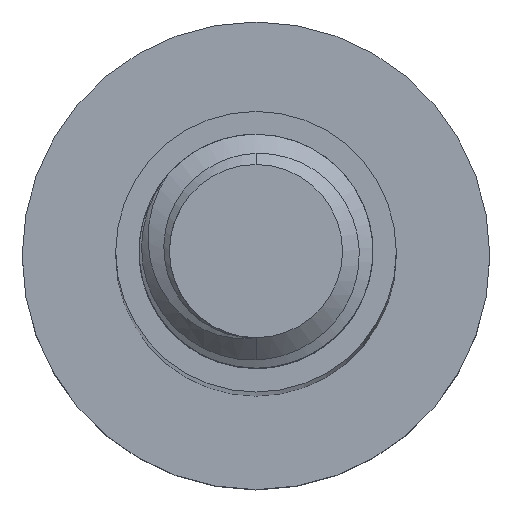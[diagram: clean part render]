
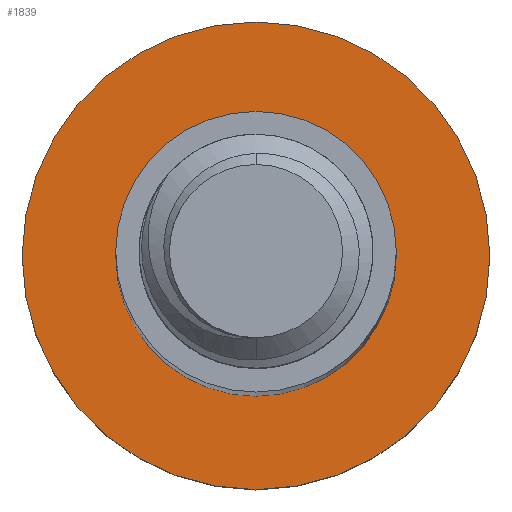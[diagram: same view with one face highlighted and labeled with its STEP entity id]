
A CAD part, top view. The second image highlights one B-rep face of the part: STEP entity #1839.
In plain terms, the highlighted planar face has unit normal (0, 0, 1).
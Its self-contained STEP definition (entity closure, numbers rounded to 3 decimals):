
#16 = AXIS2_PLACEMENT_3D ( 'NONE', #709, #2043, #2626 ) ;
#178 = AXIS2_PLACEMENT_3D ( 'NONE', #793, #3009, #2185 ) ;
#216 = CARTESIAN_POINT ( 'NONE',  ( 0., 0., -100. ) ) ;
#253 = CARTESIAN_POINT ( 'NONE',  ( -6., 0., -100. ) ) ;
#337 = CARTESIAN_POINT ( 'NONE',  ( 6., 0., -100. ) ) ;
#338 = CARTESIAN_POINT ( 'NONE',  ( 0., 0., -100. ) ) ;
#479 = VERTEX_POINT ( 'NONE', #1999 ) ;
#543 = VERTEX_POINT ( 'NONE', #337 ) ;
#709 = CARTESIAN_POINT ( 'NONE',  ( 0., 0., -100. ) ) ;
#793 = CARTESIAN_POINT ( 'NONE',  ( 0., 0., -100. ) ) ;
#855 = DIRECTION ( 'NONE',  ( -1., 0., 0. ) ) ;
#988 = CIRCLE ( 'NONE', #2996, 6. ) ;
#1032 = ORIENTED_EDGE ( 'NONE', *, *, #2866, .F. ) ;
#1079 = EDGE_LOOP ( 'NONE', ( #1706, #1175 ) ) ;
#1106 = DIRECTION ( 'NONE',  ( 0., 0., -1. ) ) ;
#1159 = EDGE_LOOP ( 'NONE', ( #1032, #1781 ) ) ;
#1175 = ORIENTED_EDGE ( 'NONE', *, *, #3031, .T. ) ;
#1297 = DIRECTION ( 'NONE',  ( -1., 0., 0. ) ) ;
#1349 = VERTEX_POINT ( 'NONE', #253 ) ;
#1652 = CARTESIAN_POINT ( 'NONE',  ( 0., 0., -100. ) ) ;
#1661 = AXIS2_PLACEMENT_3D ( 'NONE', #338, #1106, #855 ) ;
#1706 = ORIENTED_EDGE ( 'NONE', *, *, #3535, .T. ) ;
#1723 = CARTESIAN_POINT ( 'NONE',  ( -10., 0., -100. ) ) ;
#1781 = ORIENTED_EDGE ( 'NONE', *, *, #1908, .F. ) ;
#1839 = ADVANCED_FACE ( 'NONE', ( #3528, #3266 ), #2785, .F. ) ;
#1908 = EDGE_CURVE ( 'NONE', #1971, #479, #3286, .T. ) ;
#1955 = CIRCLE ( 'NONE', #16, 10. ) ;
#1971 = VERTEX_POINT ( 'NONE', #1723 ) ;
#1999 = CARTESIAN_POINT ( 'NONE',  ( 10., 0., -100. ) ) ;
#2043 = DIRECTION ( 'NONE',  ( 0., 0., -1. ) ) ;
#2161 = DIRECTION ( 'NONE',  ( 0., 0., -1. ) ) ;
#2185 = DIRECTION ( 'NONE',  ( -1., 0., 0. ) ) ;
#2367 = AXIS2_PLACEMENT_3D ( 'NONE', #216, #2161, #1297 ) ;
#2626 = DIRECTION ( 'NONE',  ( -1., 0., 0. ) ) ;
#2749 = DIRECTION ( 'NONE',  ( 0., 0., -1. ) ) ;
#2785 = PLANE ( 'NONE',  #1661 ) ;
#2789 = DIRECTION ( 'NONE',  ( -1., 0., 0. ) ) ;
#2866 = EDGE_CURVE ( 'NONE', #479, #1971, #1955, .T. ) ;
#2996 = AXIS2_PLACEMENT_3D ( 'NONE', #1652, #2749, #2789 ) ;
#3009 = DIRECTION ( 'NONE',  ( 0., 0., -1. ) ) ;
#3031 = EDGE_CURVE ( 'NONE', #543, #1349, #988, .T. ) ;
#3266 = FACE_OUTER_BOUND ( 'NONE', #1159, .T. ) ;
#3286 = CIRCLE ( 'NONE', #178, 10. ) ;
#3453 = CIRCLE ( 'NONE', #2367, 6. ) ;
#3528 = FACE_BOUND ( 'NONE', #1079, .T. ) ;
#3535 = EDGE_CURVE ( 'NONE', #1349, #543, #3453, .T. ) ;
